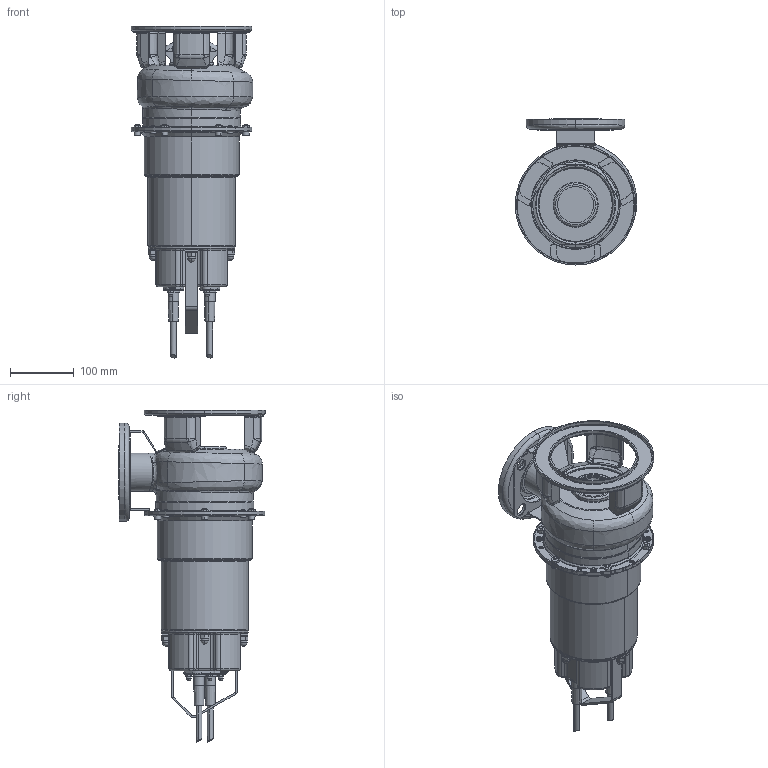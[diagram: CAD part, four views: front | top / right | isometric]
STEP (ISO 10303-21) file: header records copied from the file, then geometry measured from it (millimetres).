
FILE_DESCRIPTION((''),'2;1');
FILE_NAME('DWF_M75A_ASM','2009-09-28T',('Utente'),('"Ebara Pumps Europe +39.444.706811"'),'PRO/ENGINEER BY PARAMETRIC TECHNOLOGY CORPORATION, 2008400','PRO/ENGINEER BY PARAMETRIC TECHNOLOGY CORPORATION, 2008400','');
FILE_SCHEMA(('AUTOMOTIVE_DESIGN { 1 0 10303 214 1 1 1 1 }'));
Length unit declared in the file: millimetre
Products named in the file (18): 20698; DADO_A_SALDARE_M6; DADO_M5; 62032; 20986; 20985; 20987_ASM; 15032; 72074; CORPO_POMPA_DWF_ASM; CASSA_MOTORE_BASSA; COPERCHIO_MOTORE_25082; 60022; 66002_SEMPLICE; 65003_SEMPLICE; DADO_CALOTTA_M5; VITE_TCC_M5X8_UNI7687; DWF_M75A_ASM
Assembly tree (32 placements, depth 4):
  DWF_M75A_ASM
    CORPO_POMPA_DWF_ASM
      20698
      DADO_A_SALDARE_M6  x6
      DADO_M5  x4
      62032
      20987_ASM
        20986
        20985
      15032
      72074  x3
    CASSA_MOTORE_BASSA
    COPERCHIO_MOTORE_25082
    60022
    66002_SEMPLICE  x2
    65003_SEMPLICE  x2
    DADO_CALOTTA_M5  x4
    VITE_TCC_M5X8_UNI7687
Bounding box: 191.31 x 230 x 522.52 mm (x, y, z)
Volume: 4103482.7 mm3; surface area: 627748.2 mm2
Topology: 30 solids, 33 shells, 1309 faces, 3022 edges, 1840 vertices
Faces by surface type: plane 416, cylinder 407, bspline 178, torus 163, cone 111, sphere 30, extrusion 4
Entity records: 37855 total; most frequent: CARTESIAN_POINT 14550, DIRECTION 4858, ORIENTED_EDGE 4432, EDGE_CURVE 2218, AXIS2_PLACEMENT_3D 2042, VERTEX_POINT 1357, CIRCLE 1121, EDGE_LOOP 1071
